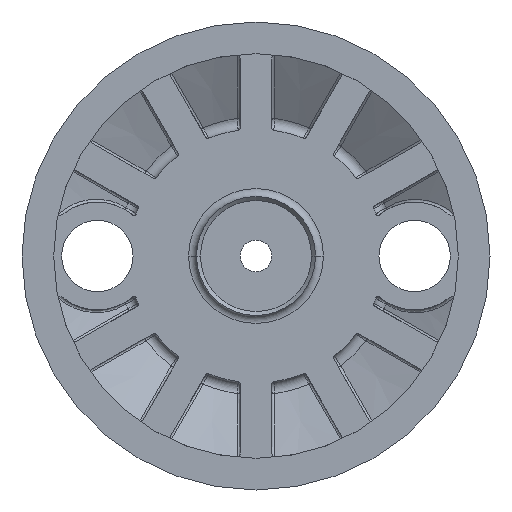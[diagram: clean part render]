
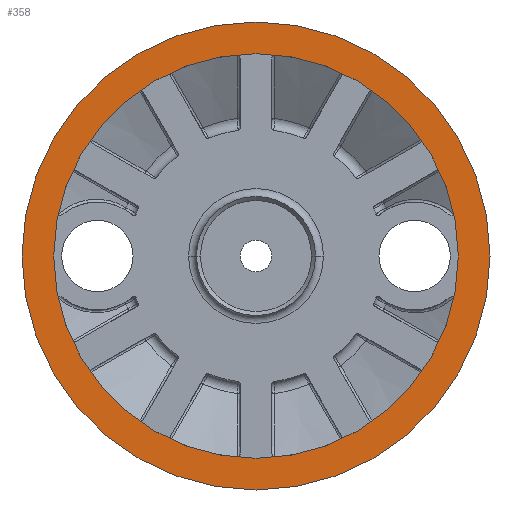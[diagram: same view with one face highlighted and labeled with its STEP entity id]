
A CAD part, front view. The second image highlights one B-rep face of the part: STEP entity #358.
In plain terms, the highlighted planar face has unit normal (0, -1, 0).
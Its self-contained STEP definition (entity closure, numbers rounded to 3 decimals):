
#358=ADVANCED_FACE('NONE',(#868,#869),#870,.T.);
#868=FACE_OUTER_BOUND('',#2001,.T.);
#869=FACE_BOUND('',#2002,.T.);
#870=PLANE('',#2003);
#2001=EDGE_LOOP('',(#4048,#4049));
#2002=EDGE_LOOP('',(#4050,#4051));
#2003=AXIS2_PLACEMENT_3D('',#4052,#4053,#4054);
#4048=ORIENTED_EDGE('',*,*,#5635,.F.);
#4049=ORIENTED_EDGE('',*,*,#5636,.F.);
#4050=ORIENTED_EDGE('',*,*,#5637,.T.);
#4051=ORIENTED_EDGE('',*,*,#5638,.T.);
#4052=CARTESIAN_POINT('',(-25.5,0.,0.0));
#4053=DIRECTION('',(0.,-1.0,0.0));
#4054=DIRECTION('',(0.0,0.0,-1.0));
#5635=EDGE_CURVE('NONE',#6601,#6602,#6603,.T.);
#5636=EDGE_CURVE('NONE',#6602,#6601,#6604,.T.);
#5637=EDGE_CURVE('NONE',#6605,#6606,#6607,.T.);
#5638=EDGE_CURVE('NONE',#6606,#6605,#6608,.T.);
#6601=VERTEX_POINT('NONE',#8402);
#6602=VERTEX_POINT('NONE',#8403);
#6603=CIRCLE('',#8404,29.5);
#6604=CIRCLE('',#8405,29.5);
#6605=VERTEX_POINT('NONE',#8406);
#6606=VERTEX_POINT('NONE',#8407);
#6607=CIRCLE('',#8408,25.5);
#6608=CIRCLE('',#8409,25.5);
#8402=CARTESIAN_POINT('',(29.5,0.,0.0));
#8403=CARTESIAN_POINT('',(-29.5,0.0,0.));
#8404=AXIS2_PLACEMENT_3D('',#9921,#9922,#9923);
#8405=AXIS2_PLACEMENT_3D('',#9924,#9925,#9926);
#8406=CARTESIAN_POINT('',(-25.5,0.,0.0));
#8407=CARTESIAN_POINT('',(25.5,0.,0.));
#8408=AXIS2_PLACEMENT_3D('',#9927,#9928,#9929);
#8409=AXIS2_PLACEMENT_3D('',#9930,#9931,#9932);
#9921=CARTESIAN_POINT('',(0.,0.,0.0));
#9922=DIRECTION('',(0.,1.0,0.0));
#9923=DIRECTION('',(-1.0,0.,0.0));
#9924=CARTESIAN_POINT('',(0.,0.,0.0));
#9925=DIRECTION('',(0.,1.0,0.0));
#9926=DIRECTION('',(-1.0,0.,0.0));
#9927=CARTESIAN_POINT('',(0.,0.,0.0));
#9928=DIRECTION('',(0.,1.0,0.0));
#9929=DIRECTION('',(-1.0,0.,0.0));
#9930=CARTESIAN_POINT('',(0.,0.,0.0));
#9931=DIRECTION('',(0.,1.0,0.0));
#9932=DIRECTION('',(-1.0,0.,0.0));
